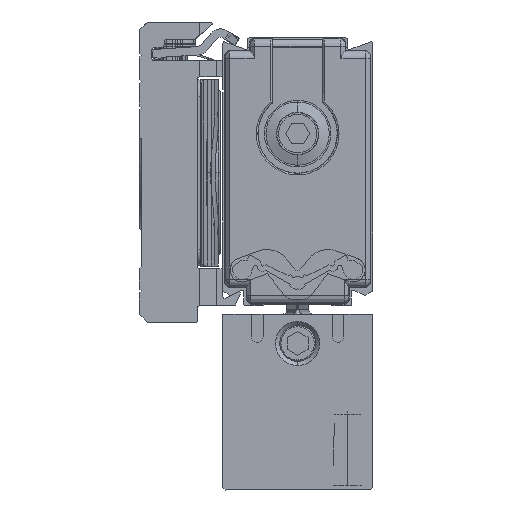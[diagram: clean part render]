
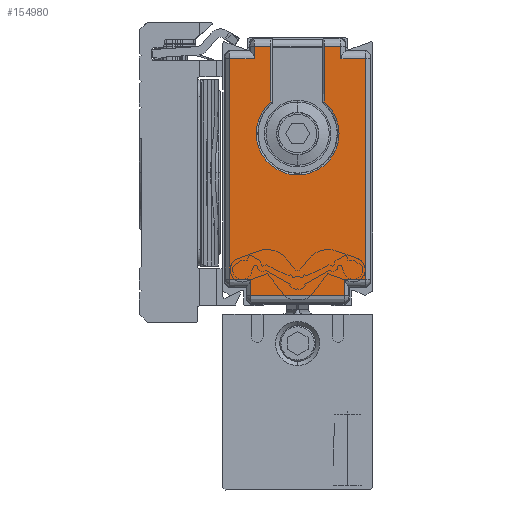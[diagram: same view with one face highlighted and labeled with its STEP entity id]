
A CAD part, left-side view. The second image highlights one B-rep face of the part: STEP entity #154980.
In plain terms, the highlighted planar face has unit normal (-1, 0, 0) as drawn and (0, 0, -1) by its records, which use the part's own axes.
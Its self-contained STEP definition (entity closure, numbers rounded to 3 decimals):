
#114140=CARTESIAN_POINT('',(24.688,30.224,-494.5));
#114150=VERTEX_POINT('',#114140);
#115200=CARTESIAN_POINT('',(31.365,35.75,-494.5));
#115210=DIRECTION('',(0.,-1.,0.));
#115220=VECTOR('',#115210,1.);
#115230=LINE('',#115200,#115220);
#115240=CARTESIAN_POINT('',(31.365,23.776,-494.5));
#115250=VERTEX_POINT('',#115240);
#115260=CARTESIAN_POINT('',(31.365,21.802,-494.5));
#115270=VERTEX_POINT('',#115260);
#115280=EDGE_CURVE('',#115250,#115270,#115230,.T.);
#122290=CARTESIAN_POINT('',(3.435,32.648,-494.5));
#122300=VERTEX_POINT('',#122290);
#122500=CARTESIAN_POINT('',(1.435,32.648,-494.5));
#122510=VERTEX_POINT('',#122500);
#122540=CARTESIAN_POINT('',(3.935,32.648,-494.5));
#122550=CARTESIAN_POINT('',(3.435,32.648,-494.5));
#122560=CARTESIAN_POINT('',(2.935,32.648,-494.5));
#122570=CARTESIAN_POINT('',(2.102,32.648,-494.5));
#122580=CARTESIAN_POINT('',(1.768,32.648,-494.5));
#122590=CARTESIAN_POINT('',(1.435,32.648,-494.5));
#122600=B_SPLINE_CURVE_WITH_KNOTS('',3,(#122540,#122550,#122560,#122570,
#122580,#122590),.UNSPECIFIED.,.F.,.F.,(4,2,4),(37.084,
38.584,39.584),.UNSPECIFIED.);
#122610=EDGE_CURVE('',#122300,#122510,#122600,.T.);
#123950=CARTESIAN_POINT('',(24.688,23.776,-494.5));
#123960=VERTEX_POINT('',#123950);
#125750=CARTESIAN_POINT('',(29.865,35.75,-494.5));
#125760=DIRECTION('',(0.,1.,0.));
#125770=VECTOR('',#125760,1.);
#125780=LINE('',#125750,#125770);
#125790=CARTESIAN_POINT('',(29.865,32.198,-494.5));
#125800=VERTEX_POINT('',#125790);
#125810=CARTESIAN_POINT('',(29.865,35.198,-494.5));
#125820=VERTEX_POINT('',#125810);
#125830=EDGE_CURVE('',#125800,#125820,#125780,.T.);
#127680=CARTESIAN_POINT('',(3.435,35.75,-494.5));
#127690=DIRECTION('',(0.,1.,0.));
#127700=VECTOR('',#127690,1.);
#127710=LINE('',#127680,#127700);
#127720=CARTESIAN_POINT('',(3.435,35.198,-494.5));
#127730=VERTEX_POINT('',#127720);
#127740=EDGE_CURVE('',#122300,#127730,#127710,.T.);
#128170=CARTESIAN_POINT('',(31.365,32.198,-494.5));
#128180=VERTEX_POINT('',#128170);
#128210=CARTESIAN_POINT('',(31.365,30.224,-494.5));
#128220=VERTEX_POINT('',#128210);
#128230=EDGE_CURVE('',#128180,#128220,#115230,.T.);
#128940=CARTESIAN_POINT('',(3.435,18.802,-494.5));
#128950=VERTEX_POINT('',#128940);
#129260=CARTESIAN_POINT('',(3.435,35.75,-494.5));
#129270=DIRECTION('',(0.,-1.,0.));
#129280=VECTOR('',#129270,1.);
#129290=LINE('',#129260,#129280);
#129300=CARTESIAN_POINT('',(3.435,21.352,-494.5));
#129310=VERTEX_POINT('',#129300);
#129320=EDGE_CURVE('',#129310,#128950,#129290,.T.);
#130170=CARTESIAN_POINT('',(1.435,21.352,-494.5));
#130180=VERTEX_POINT('',#130170);
#131650=CARTESIAN_POINT('',(3.935,21.352,-494.5));
#131660=CARTESIAN_POINT('',(3.435,21.352,-494.5));
#131670=CARTESIAN_POINT('',(2.935,21.352,-494.5));
#131680=CARTESIAN_POINT('',(2.102,21.352,-494.5));
#131690=CARTESIAN_POINT('',(1.768,21.352,-494.5));
#131700=CARTESIAN_POINT('',(1.435,21.352,-494.5));
#131710=B_SPLINE_CURVE_WITH_KNOTS('',3,(#131650,#131660,#131670,#131680,
#131690,#131700),.UNSPECIFIED.,.F.,.F.,(4,2,4),(37.084,
38.584,39.584),.UNSPECIFIED.);
#131720=EDGE_CURVE('',#129310,#130180,#131710,.T.);
#132900=CARTESIAN_POINT('',(1.435,35.75,-494.5));
#132910=DIRECTION('',(0.,1.,0.));
#132920=VECTOR('',#132910,1.);
#132930=LINE('',#132900,#132920);
#132940=EDGE_CURVE('',#130180,#122510,#132930,.T.);
#136440=CARTESIAN_POINT('',(0.15,30.224,-494.5));
#136450=DIRECTION('',(1.,0.,0.));
#136460=VECTOR('',#136450,1.);
#136470=LINE('',#136440,#136460);
#136480=EDGE_CURVE('',#114150,#128220,#136470,.T.);
#140220=CARTESIAN_POINT('',(29.865,21.802,-494.5));
#140230=VERTEX_POINT('',#140220);
#140280=CARTESIAN_POINT('',(29.365,21.802,-494.5));
#140290=CARTESIAN_POINT('',(29.782,21.802,-494.5));
#140300=CARTESIAN_POINT('',(30.198,21.802,-494.5));
#140310=CARTESIAN_POINT('',(30.865,21.802,-494.5));
#140320=CARTESIAN_POINT('',(31.115,21.802,-494.5));
#140330=CARTESIAN_POINT('',(31.365,21.802,-494.5));
#140340=B_SPLINE_CURVE_WITH_KNOTS('',3,(#140280,#140290,#140300,#140310,
#140320,#140330),.UNSPECIFIED.,.F.,.F.,(4,2,4),(37.587,
38.837,39.587),.UNSPECIFIED.);
#140350=EDGE_CURVE('',#140230,#115270,#140340,.T.);
#140680=CARTESIAN_POINT('',(29.365,32.198,-494.5));
#140690=CARTESIAN_POINT('',(29.782,32.198,-494.5));
#140700=CARTESIAN_POINT('',(30.198,32.198,-494.5));
#140710=CARTESIAN_POINT('',(30.865,32.198,-494.5));
#140720=CARTESIAN_POINT('',(31.115,32.198,-494.5));
#140730=CARTESIAN_POINT('',(31.365,32.198,-494.5));
#140740=B_SPLINE_CURVE_WITH_KNOTS('',3,(#140680,#140690,#140700,#140710,
#140720,#140730),.UNSPECIFIED.,.F.,.F.,(4,2,4),(37.587,
38.837,39.587),.UNSPECIFIED.);
#140750=EDGE_CURVE('',#125800,#128180,#140740,.T.);
#141740=CARTESIAN_POINT('',(29.865,18.802,-494.5));
#141750=VERTEX_POINT('',#141740);
#141780=CARTESIAN_POINT('',(3.435,18.802,-494.5));
#141790=CARTESIAN_POINT('',(7.84,18.802,-494.5));
#141800=CARTESIAN_POINT('',(12.245,18.802,-494.5));
#141810=CARTESIAN_POINT('',(21.055,18.802,-494.5));
#141820=CARTESIAN_POINT('',(25.46,18.802,-494.5));
#141830=CARTESIAN_POINT('',(29.865,18.802,-494.5));
#141840=B_SPLINE_CURVE_WITH_KNOTS('',3,(#141780,#141790,#141800,#141810,
#141820,#141830),.UNSPECIFIED.,.F.,.F.,(4,2,4),(24.334,
37.549,50.764),.UNSPECIFIED.);
#141850=EDGE_CURVE('',#128950,#141750,#141840,.T.);
#148250=CARTESIAN_POINT('',(29.865,35.75,-494.5));
#148260=DIRECTION('',(0.,-1.,0.));
#148270=VECTOR('',#148260,1.);
#148280=LINE('',#148250,#148270);
#148290=EDGE_CURVE('',#140230,#141750,#148280,.T.);
#149480=CARTESIAN_POINT('',(3.435,35.198,-494.5));
#149490=CARTESIAN_POINT('',(7.84,35.198,-494.5));
#149500=CARTESIAN_POINT('',(12.245,35.198,-494.5));
#149510=CARTESIAN_POINT('',(21.055,35.198,-494.5));
#149520=CARTESIAN_POINT('',(25.46,35.198,-494.5));
#149530=CARTESIAN_POINT('',(29.865,35.198,-494.5));
#149540=B_SPLINE_CURVE_WITH_KNOTS('',3,(#149480,#149490,#149500,#149510,
#149520,#149530),.UNSPECIFIED.,.F.,.F.,(4,2,4),(24.308,
37.523,50.738),.UNSPECIFIED.);
#149550=EDGE_CURVE('',#127730,#125820,#149540,.T.);
#154470=CARTESIAN_POINT('',(20.9,27.,-494.5));
#154480=DIRECTION('',(0.,0.,-1.));
#154490=DIRECTION('',(0.,1.,0.));
#154500=AXIS2_PLACEMENT_3D('',#154470,#154480,#154490);
#154510=CIRCLE('',#154500,4.974);
#154520=EDGE_CURVE('',#123960,#114150,#154510,.T.);
#154700=CARTESIAN_POINT('',(16.65,27.,-494.5));
#154710=DIRECTION('',(0.,0.,1.));
#154720=DIRECTION('',(0.,1.,0.));
#154730=AXIS2_PLACEMENT_3D('',#154700,#154710,#154720);
#154740=PLANE('',#154730);
#154750=ORIENTED_EDGE('',*,*,#154520,.F.);
#154760=ORIENTED_EDGE('',*,*,#136480,.F.);
#154770=ORIENTED_EDGE('',*,*,#128230,.T.);
#154780=ORIENTED_EDGE('',*,*,#140750,.T.);
#154790=ORIENTED_EDGE('',*,*,#125830,.F.);
#154800=ORIENTED_EDGE('',*,*,#149550,.T.);
#154810=ORIENTED_EDGE('',*,*,#127740,.T.);
#154820=ORIENTED_EDGE('',*,*,#122610,.F.);
#154830=ORIENTED_EDGE('',*,*,#132940,.T.);
#154840=ORIENTED_EDGE('',*,*,#131720,.T.);
#154850=ORIENTED_EDGE('',*,*,#129320,.F.);
#154860=ORIENTED_EDGE('',*,*,#141850,.F.);
#154870=ORIENTED_EDGE('',*,*,#148290,.T.);
#154880=ORIENTED_EDGE('',*,*,#140350,.F.);
#154890=ORIENTED_EDGE('',*,*,#115280,.T.);
#154900=CARTESIAN_POINT('',(0.15,23.776,-494.5));
#154910=DIRECTION('',(-1.,0.,0.));
#154920=VECTOR('',#154910,1.);
#154930=LINE('',#154900,#154920);
#154940=EDGE_CURVE('',#115250,#123960,#154930,.T.);
#154950=ORIENTED_EDGE('',*,*,#154940,.F.);
#154960=EDGE_LOOP('',(#154950,#154890,#154880,#154870,#154860,#154850,
#154840,#154830,#154820,#154810,#154800,#154790,#154780,#154770,#154760,
#154750));
#154970=FACE_OUTER_BOUND('',#154960,.T.);
#154980=ADVANCED_FACE('',(#154970),#154740,.F.);
